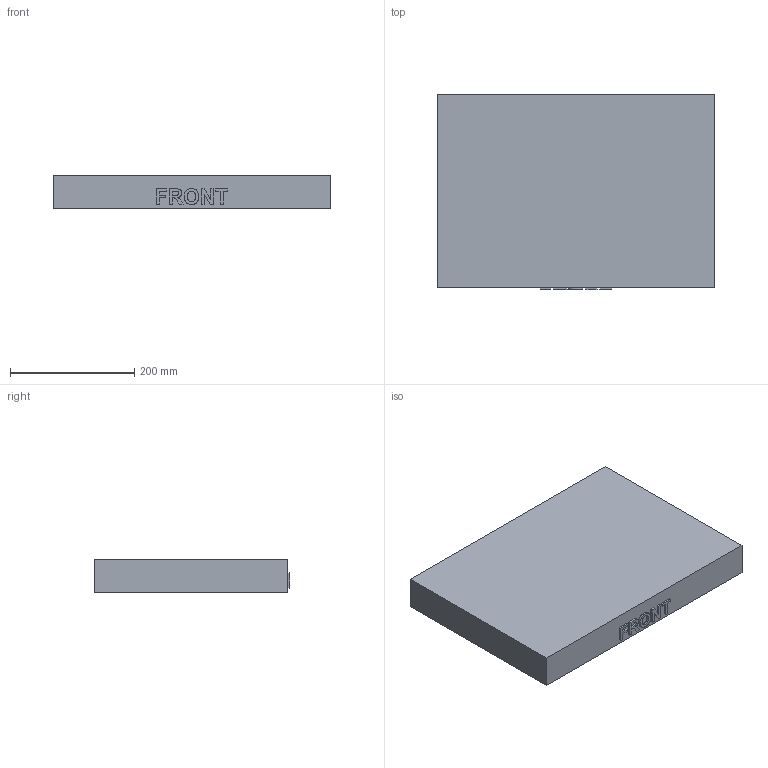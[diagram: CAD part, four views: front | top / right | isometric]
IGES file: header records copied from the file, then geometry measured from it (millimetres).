
Start section: Comment
Global section: file name: 2300-lid_internal_tub.igs; native system:  By UGS Corp.; preprocessor: XPlus GENERIC/IGES 3.0; author: Author; organization: Title; date: 20100512.163517; units: millimetre
Bounding box: 444.5 x 314.32 x 53.98 mm (x, y, z)
Surface area: 422640.4 mm2 (no closed solid volume)
Topology: 0 solids, 0 shells, 175 faces, 998 edges, 990 vertices
Faces by surface type: bspline 175
